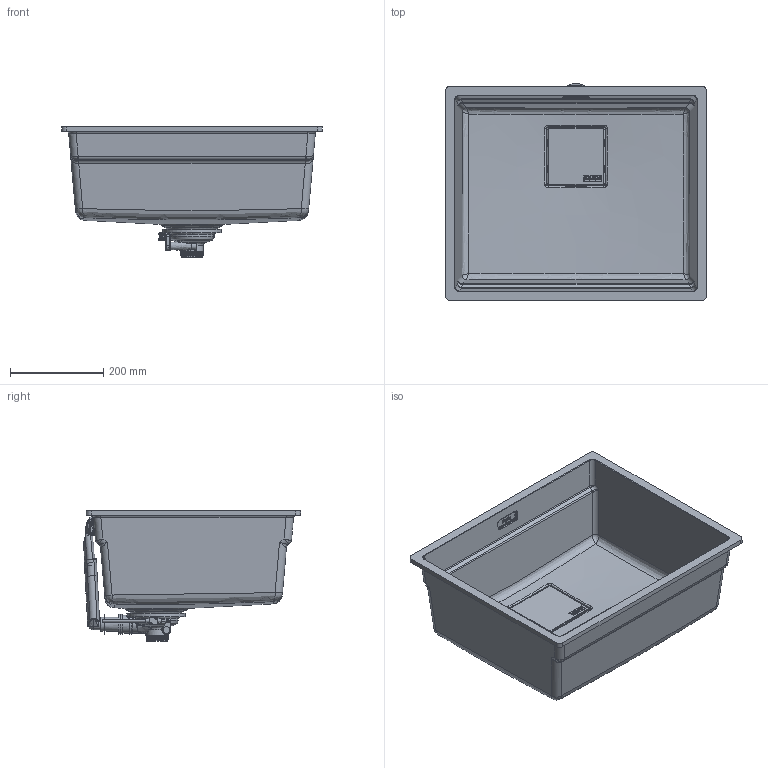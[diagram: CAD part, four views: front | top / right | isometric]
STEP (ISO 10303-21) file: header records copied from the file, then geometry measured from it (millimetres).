
FILE_DESCRIPTION(/* description */ (''),/* implementation_level */ '2;1');
FILE_NAME(/* name */ '3D001_Sinks_Kubus-2_KNG-110-52',/* time_stamp */ '2024-07-04T15:31:49+02:00',/* author */ (''),/* organization */ (''),/* preprocessor_version */ 'ST-DEVELOPER v19.2',/* originating_system */ 'Rhino 8.7',/* authorisation */ '');
FILE_SCHEMA (('CONFIG_CONTROL_DESIGN'));
Products named in the file (5): Document; LOGO_SOLOBORDO_COPRISCARICO; 20127765_tpm_000; Blocco 01; Blocco 03
Bounding box: 560 x 466.34 x 280.16 mm (x, y, z)
Volume: 4383176.5 mm3; surface area: 1267586.5 mm2
Topology: 15 solids, 23 shells, 2609 faces, 7153 edges, 4655 vertices
Faces by surface type: plane 1665, cylinder 499, bspline 445
Full cylindrical faces by diameter (mm): 5 x3, 6 x1, 7.5 x3, 8 x1, 14 x2, 23.8 x1, 24 x1, 30 x3, 36 x1, 39 x1, 42 x3, 45 x1, 48 x1, 83.403 x1, 84 x1, 90 x1, 126 x1
Entity records: 108158 total; most frequent: CARTESIAN_POINT 52953, ORIENTED_EDGE 14073, EDGE_CURVE 7121, DIRECTION 5916, B_SPLINE_CURVE_WITH_KNOTS 4755, VERTEX_POINT 4655, AXIS2_PLACEMENT_3D 4040, EDGE_LOOP 2754
